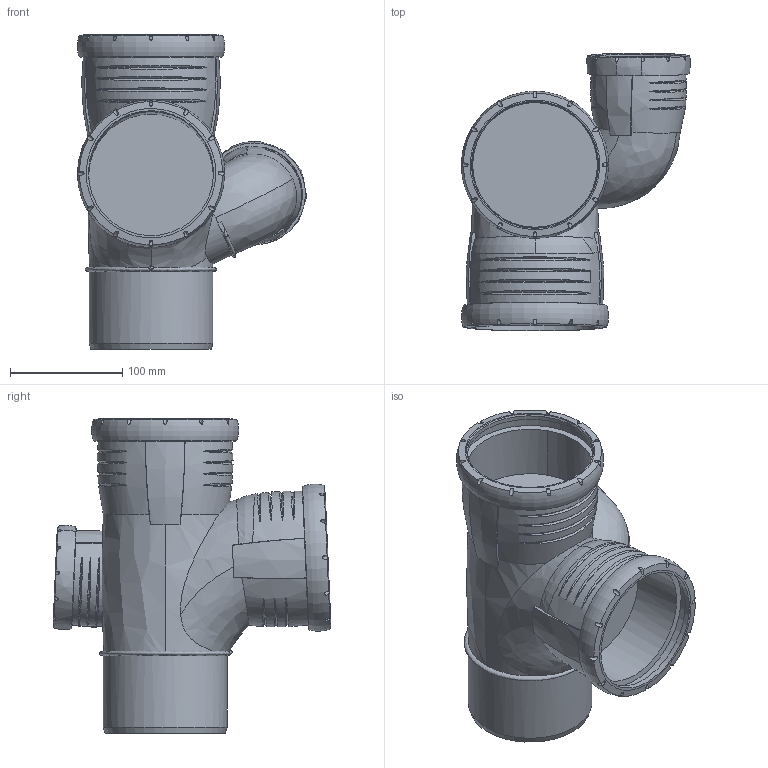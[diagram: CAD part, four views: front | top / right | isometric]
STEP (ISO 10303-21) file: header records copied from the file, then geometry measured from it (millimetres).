
FILE_DESCRIPTION(/* description */ (''),/* implementation_level */ '2;1');
FILE_NAME(/* name */ 'H:\Geberit-Teile\Export\Silent\stp\393564.stp',/* time_stamp */ '2017-03-30T11:37:57+02:00',/* author */ ('seihe2'),/* organization */ (''),/* preprocessor_version */ 'ST-DEVELOPER v15.2',/* originating_system */ 'Autodesk Inventor 2014',/* authorisation */ '');
FILE_SCHEMA (('AUTOMOTIVE_DESIGN { 1 0 10303 214 3 1 1 }'));
Length unit declared in the file: millimetre
Products named in the file (1): 393564
Bounding box: 203.88 x 247.02 x 279.9 mm (x, y, z)
Volume: 2564665.2 mm3; surface area: 295601.9 mm2
Topology: 1 solids, 1 shells, 280 faces, 850 edges, 575 vertices
Faces by surface type: bspline 126, plane 101, cone 35, cylinder 15, torus 3
Full cylindrical faces by diameter (mm): 76.2 x1, 85 x1, 101.2 x1, 110.2 x1, 111.3 x2, 121.5 x2
Entity records: 17187 total; most frequent: CARTESIAN_POINT 10723, ORIENTED_EDGE 1596, DIRECTION 895, EDGE_CURVE 798, VERTEX_POINT 559, AXIS2_PLACEMENT_3D 410, B_SPLINE_CURVE_WITH_KNOTS 396, EDGE_LOOP 324
